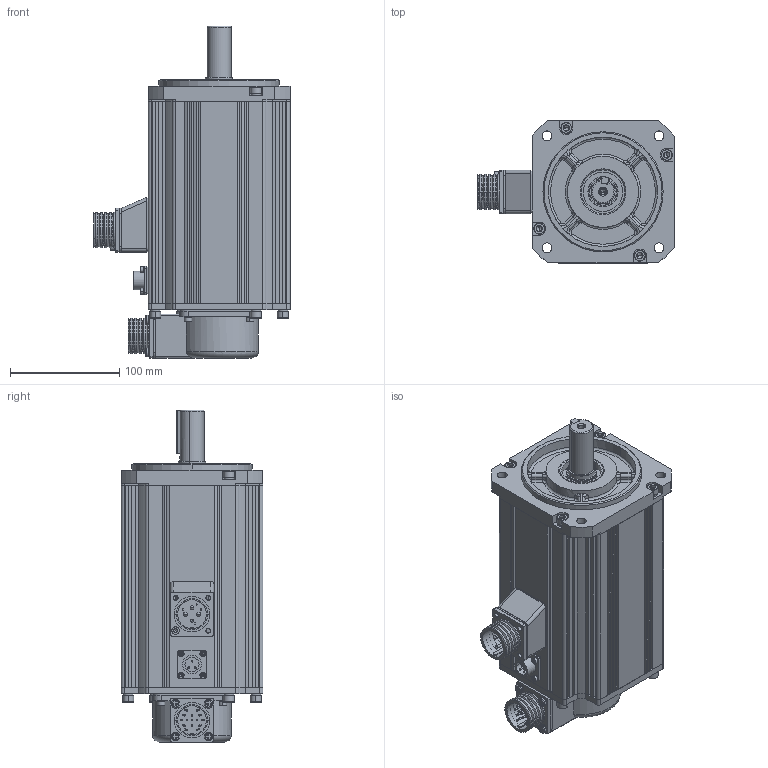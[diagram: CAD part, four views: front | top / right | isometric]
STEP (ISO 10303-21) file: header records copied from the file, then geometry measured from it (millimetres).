
FILE_DESCRIPTION((''),'2;1');
FILE_NAME('SV-MM13-3R0E-X-XA4-1000_ASM_ASM','2019-12-11T',('JWDQ'),(''),'CREO PARAMETRIC BY PTC INC, 2014050','CREO PARAMETRIC BY PTC INC, 2014050','');
FILE_SCHEMA(('CONFIG_CONTROL_DESIGN'));
Products named in the file (35): SV130BZ-ZHOU_1_1_2_3_4_5_6__AF0; SV130BZ-ZZ-1_ASM_1_1_2_3_4__AF2_ASM; SV130BZ-ZZ-2_ASM_1_1_2_3_4__AF2_ASM; 80100020-1_1_1_2_3_4_5_6_7; SV130BZ-HG_ASM_1_1_2_3_4_5_6_7_ASM; SV130BZ-ZHUANZ_ASM_1_1_2_3__AF3_ASM; SV130BZ-K_1_1_2_3_4_5_6_7; 513704090100_1_1_2_3_4_5_6_7_17; 046770000100_1_1_2_3_4_5_6_7_16; 80750004_1_1_2_3_4_5_6_7_8_9_17; 78400020_1_1_2_3_4_5_6_7_8_9_17; GBT93-4_1_1_2_3_4_5_6_7_8_9__14; GBT7R1-4X35_1_1_2_3_4_5_6_7__15; S-YD28-4_ASM_1_1_2_3_4_5_6_7_15_ASM; SV130BZ-DZ-1_ASM_1_1_2_3_4_5__7_ASM; SV130BZ-DINGZ_ASM_1_1_2_3_4_5_7_ASM; 80100007_1_1_2_3_4_5_6_7_8_9_17; 730030000200_1_1_2_3_4_5_6_7_17; SV130-QG_ASM_1_1_2_3_4_5_6_7_15_ASM; 82340004_1_1_2_3_4_5_6_7_8_9_17; 046770000100_1; 513715090100_1_1_2_3_4_5_6_7_17; 78400019_1_1_2_3_4_5_6_7_8_9_17; GBT93-4_1; GBT70R1-4X12_1_1_2_3_4_5_6_7_15; M4X16_1_1_2_3_4_5_6_7_8_9_10_17; TS5214_ASM_1_1_2_3_4_5_6_7_8_14_ASM; GBT93-6_1_1_2_3_4_5_6_7_8_9__15; GBT7R1-M6X16_1_1_2_3_4_5_6_7_15; GBT1095-6X6-41_1_1_2_3_4_5_6_7; XS16-3P_1_1_2_3_4_5_6_7; GB93-3_1_1_2_3_4_5_6_7_8; GBT7R1-3X8_1_1_2_3_4_5_6_7_8; SV130-BZ_ASM_2_1_2_3_4_5_6_AF0_ASM; SV-MM13-3R0E-X-XA4-1000_ASM_ASM
Assembly tree (67 placements, depth 6):
  SV-MM13-3R0E-X-XA4-1000_ASM_ASM
    SV130-BZ_ASM_2_1_2_3_4_5_6_AF0_ASM
      SV130BZ-ZHUANZ_ASM_1_1_2_3__AF3_ASM
        SV130BZ-ZZ-2_ASM_1_1_2_3_4__AF2_ASM
          SV130BZ-ZZ-1_ASM_1_1_2_3_4__AF2_ASM
            SV130BZ-ZHOU_1_1_2_3_4_5_6__AF0
        SV130BZ-HG_ASM_1_1_2_3_4_5_6_7_ASM
          80100020-1_1_1_2_3_4_5_6_7
      SV130BZ-DINGZ_ASM_1_1_2_3_4_5_7_ASM
        SV130BZ-DZ-1_ASM_1_1_2_3_4_5__7_ASM
          SV130BZ-K_1_1_2_3_4_5_6_7
          S-YD28-4_ASM_1_1_2_3_4_5_6_7_15_ASM
            513704090100_1_1_2_3_4_5_6_7_17
            046770000100_1_1_2_3_4_5_6_7_16
            80750004_1_1_2_3_4_5_6_7_8_9_17
            78400020_1_1_2_3_4_5_6_7_8_9_17
            GBT93-4_1_1_2_3_4_5_6_7_8_9__14
            GBT7R1-4X35_1_1_2_3_4_5_6_7__15
      SV130-QG_ASM_1_1_2_3_4_5_6_7_15_ASM
        80100007_1_1_2_3_4_5_6_7_8_9_17
        730030000200_1_1_2_3_4_5_6_7_17
      TS5214_ASM_1_1_2_3_4_5_6_7_8_14_ASM
        82340004_1_1_2_3_4_5_6_7_8_9_17
        046770000100_1
        513715090100_1_1_2_3_4_5_6_7_17
        78400019_1_1_2_3_4_5_6_7_8_9_17
        GBT93-4_1  x8
        GBT70R1-4X12_1_1_2_3_4_5_6_7_15  x4
        M4X16_1_1_2_3_4_5_6_7_8_9_10_17  x4
      GBT93-6_1_1_2_3_4_5_6_7_8_9__15  x8
      GBT7R1-M6X16_1_1_2_3_4_5_6_7_15  x8
      GBT1095-6X6-41_1_1_2_3_4_5_6_7
      XS16-3P_1_1_2_3_4_5_6_7
      GB93-3_1_1_2_3_4_5_6_7_8  x4
      GBT7R1-3X8_1_1_2_3_4_5_6_7_8  x4
Bounding box: 179.5 x 130 x 304 mm (x, y, z)
Volume: 1141199.9 mm3; surface area: 456091.4 mm2
Topology: 57 solids, 75 shells, 3304 faces, 8611 edges, 5583 vertices
Faces by surface type: plane 1925, cylinder 828, cone 394, torus 100, bspline 31, sphere 26
Entity records: 104554 total; most frequent: CARTESIAN_POINT 17070, DIRECTION 14686, ORIENTED_EDGE 14306, EDGE_CURVE 7163, AXIS2_PLACEMENT_3D 4923, VECTOR 4840, LINE 4840, VERTEX_POINT 4747
